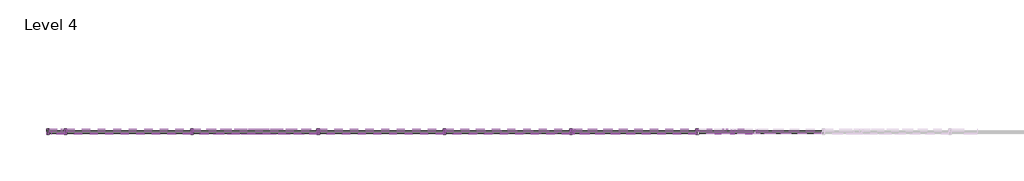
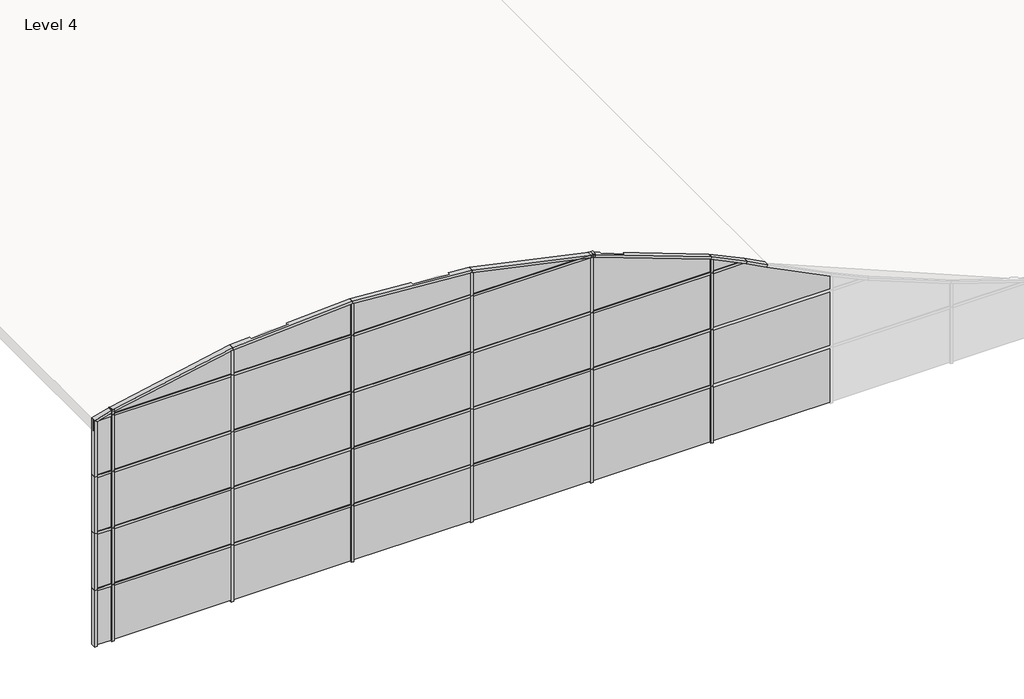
# One storey, part 1 of 2: 66 members, 33 plates.
"""IFC4 building model written with IfcOpenShell, lengths in millimetres."""

from ifc_helpers import new_model, si_unit, origin, place, context, project, spatial, transform, mapped, element, save
from components import member_8cef0660, member_82905deb, member_4491d118, member_faf7298b, member_955cf6cd, member_e5f99422, member_73fb274f, member_a47185ce, member_d19be1f0, member_cde82955, member_f3edd3fb, member_453e99e5, member_9c668a66, member_24a7c0ea, member_549f2401, member_e0f06050, member_56d0ea82, member_09c59d25, member_aafbdc53, member_af2f84b9, member_494aa8e8, member_e47226ae, member_e590d8a7, system_panel_solid_4f3844da, system_panel_solid_93991fe5, system_panel_solid_98b8eca1, system_panel_solid_25f436c3, system_panel_solid_94e46eaf, system_panel_solid_ae3a6953, system_panel_solid_29574cca, system_panel_solid_124e7d94, system_panel_solid_212cb18d, system_panel_solid_5f5f2803

model = new_model("IFC4")

# Units and contexts
model_context = context("Model", 3, world=origin())
ifc_project = project(units=[si_unit("LENGTHUNIT", "METRE", prefix="MILLI")], contexts=[model_context])

# Site, building, storey
site = spatial("IfcSite", under=ifc_project)
building = spatial("IfcBuilding", under=site)
storey = spatial("IfcBuildingStorey", under=building, Name="Level 4", Elevation=9144.0)

# Members
placement = place(None, origin())
member_shape = member_8cef0660(model_context)
element("IfcMember", 1, ObjectType="Rectangular Mullion : 2.5\" x 5\" rectangular", at=placement, inside=storey, context=model_context, shape_type="MappedRepresentation", body=[
    mapped(member_shape, transform((-31419.6011466, -42761.5611797, 10668.0), x_axis=(0.0, 0.0, 1.0), y_axis=(0.0, -1.0, 0.0), z_axis=(1.0, 0.0, 0.0))),
])
element("IfcMember", 2, ObjectType="Rectangular Mullion : 2.5\" x 5\" rectangular", at=placement, inside=storey, context=model_context, shape_type="MappedRepresentation", body=[
    mapped(member_shape, transform((-28371.6011466, -42761.5611797, 10668.0), x_axis=(0.0, 0.0, 1.0), y_axis=(0.0, -1.0, 0.0), z_axis=(1.0, 0.0, 0.0))),
])
element("IfcMember", 3, ObjectType="Rectangular Mullion : 2.5\" x 5\" rectangular", at=placement, inside=storey, context=model_context, shape_type="MappedRepresentation", body=[
    mapped(member_shape, transform((-40563.6011466, -42761.5611797, 15240.0), x_axis=(0.0, 0.0, 1.0), y_axis=(0.0, -1.0, 0.0), z_axis=(1.0, 0.0, 0.0))),
])
element("IfcMember", 4, ObjectType="Rectangular Mullion : 2.5\" x 5\" rectangular", at=placement, inside=storey, context=model_context, shape_type="MappedRepresentation", body=[
    mapped(member_shape, transform((-37515.6011466, -42761.5611797, 15240.0), x_axis=(0.0, 0.0, 1.0), y_axis=(0.0, -1.0, 0.0), z_axis=(1.0, 0.0, 0.0))),
])
element("IfcMember", 5, ObjectType="Rectangular Mullion : 2.5\" x 5\" rectangular", at=placement, inside=storey, context=model_context, shape_type="MappedRepresentation", body=[
    mapped(member_shape, transform((-34467.6011466, -42761.5611797, 15240.0), x_axis=(0.0, 0.0, 1.0), y_axis=(0.0, -1.0, 0.0), z_axis=(1.0, 0.0, 0.0))),
])
element("IfcMember", 6, ObjectType="Rectangular Mullion : 2.5\" x 5\" rectangular", at=placement, inside=storey, context=model_context, shape_type="MappedRepresentation", body=[
    mapped(member_shape, transform((-31419.6011466, -42761.5611797, 15240.0), x_axis=(0.0, 0.0, 1.0), y_axis=(0.0, -1.0, 0.0), z_axis=(1.0, 0.0, 0.0))),
])
element("IfcMember", 7, ObjectType="Rectangular Mullion : 2.5\" x 5\" rectangular", at=placement, inside=storey, context=model_context, shape_type="MappedRepresentation", body=[
    mapped(member_shape, transform((-40563.6011466, -42761.5611797, 13716.0), x_axis=(0.0, 0.0, 1.0), y_axis=(0.0, -1.0, 0.0), z_axis=(1.0, 0.0, 0.0))),
])
element("IfcMember", 8, ObjectType="Rectangular Mullion : 2.5\" x 5\" rectangular", at=placement, inside=storey, context=model_context, shape_type="MappedRepresentation", body=[
    mapped(member_shape, transform((-37515.6011466, -42761.5611797, 13716.0), x_axis=(0.0, 0.0, 1.0), y_axis=(0.0, -1.0, 0.0), z_axis=(1.0, 0.0, 0.0))),
])
element("IfcMember", 9, ObjectType="Rectangular Mullion : 2.5\" x 5\" rectangular", at=placement, inside=storey, context=model_context, shape_type="MappedRepresentation", body=[
    mapped(member_shape, transform((-34467.6011466, -42761.5611797, 13716.0), x_axis=(0.0, 0.0, 1.0), y_axis=(0.0, -1.0, 0.0), z_axis=(1.0, 0.0, 0.0))),
])
element("IfcMember", 10, ObjectType="Rectangular Mullion : 2.5\" x 5\" rectangular", at=placement, inside=storey, context=model_context, shape_type="MappedRepresentation", body=[
    mapped(member_shape, transform((-31419.6011466, -42761.5611797, 13716.0), x_axis=(0.0, 0.0, 1.0), y_axis=(0.0, -1.0, 0.0), z_axis=(1.0, 0.0, 0.0))),
])
element("IfcMember", 11, ObjectType="Rectangular Mullion : 2.5\" x 5\" rectangular", at=placement, inside=storey, context=model_context, shape_type="MappedRepresentation", body=[
    mapped(member_shape, transform((-28371.6011466, -42761.5611797, 13716.0), x_axis=(0.0, 0.0, 1.0), y_axis=(0.0, -1.0, 0.0), z_axis=(1.0, 0.0, 0.0))),
])
element("IfcMember", 12, ObjectType="Rectangular Mullion : 2.5\" x 5\" rectangular", at=placement, inside=storey, context=model_context, shape_type="MappedRepresentation", body=[
    mapped(member_shape, transform((-40563.6011466, -42761.5611797, 12192.0), x_axis=(0.0, 0.0, 1.0), y_axis=(0.0, -1.0, 0.0), z_axis=(1.0, 0.0, 0.0))),
])
element("IfcMember", 13, ObjectType="Rectangular Mullion : 2.5\" x 5\" rectangular", at=placement, inside=storey, context=model_context, shape_type="MappedRepresentation", body=[
    mapped(member_shape, transform((-37515.6011466, -42761.5611797, 12192.0), x_axis=(0.0, 0.0, 1.0), y_axis=(0.0, -1.0, 0.0), z_axis=(1.0, 0.0, 0.0))),
])
element("IfcMember", 14, ObjectType="Rectangular Mullion : 2.5\" x 5\" rectangular", at=placement, inside=storey, context=model_context, shape_type="MappedRepresentation", body=[
    mapped(member_shape, transform((-34467.6011466, -42761.5611797, 12192.0), x_axis=(0.0, 0.0, 1.0), y_axis=(0.0, -1.0, 0.0), z_axis=(1.0, 0.0, 0.0))),
])
element("IfcMember", 15, ObjectType="Rectangular Mullion : 2.5\" x 5\" rectangular", at=placement, inside=storey, context=model_context, shape_type="MappedRepresentation", body=[
    mapped(member_shape, transform((-31419.6011466, -42761.5611797, 12192.0), x_axis=(0.0, 0.0, 1.0), y_axis=(0.0, -1.0, 0.0), z_axis=(1.0, 0.0, 0.0))),
])
element("IfcMember", 16, ObjectType="Rectangular Mullion : 2.5\" x 5\" rectangular", at=placement, inside=storey, context=model_context, shape_type="MappedRepresentation", body=[
    mapped(member_shape, transform((-28371.6011466, -42761.5611797, 12192.0), x_axis=(0.0, 0.0, 1.0), y_axis=(0.0, -1.0, 0.0), z_axis=(1.0, 0.0, 0.0))),
])
element("IfcMember", 17, ObjectType="Rectangular Mullion : 2.5\" x 5\" rectangular", at=placement, inside=storey, context=model_context, shape_type="MappedRepresentation", body=[
    mapped(member_shape, transform((-40563.6011466, -42761.5611797, 10668.0), x_axis=(0.0, 0.0, 1.0), y_axis=(0.0, -1.0, 0.0), z_axis=(1.0, 0.0, 0.0))),
])
element("IfcMember", 18, ObjectType="Rectangular Mullion : 2.5\" x 5\" rectangular", at=placement, inside=storey, context=model_context, shape_type="MappedRepresentation", body=[
    mapped(member_shape, transform((-37515.6011466, -42761.5611797, 10668.0), x_axis=(0.0, 0.0, 1.0), y_axis=(0.0, -1.0, 0.0), z_axis=(1.0, 0.0, 0.0))),
])
element("IfcMember", 19, ObjectType="Rectangular Mullion : 2.5\" x 5\" rectangular", at=placement, inside=storey, context=model_context, shape_type="MappedRepresentation", body=[
    mapped(member_shape, transform((-34467.6011466, -42761.5611797, 10668.0), x_axis=(0.0, 0.0, 1.0), y_axis=(0.0, -1.0, 0.0), z_axis=(1.0, 0.0, 0.0))),
])
member_2_shape = member_82905deb(model_context)
element("IfcMember", 20, ObjectType="Rectangular Mullion : 2.5\" x 5\" rectangular", at=placement, inside=storey, context=model_context, shape_type="MappedRepresentation", body=[
    mapped(member_2_shape, transform((-31387.8511466, -42761.5611797, 13716.0), x_axis=(-1.0, 0.0, 0.0), y_axis=(0.0, -1.0, 0.0), z_axis=(0.0, 0.0, 1.0))),
])
element("IfcMember", 21, ObjectType="Rectangular Mullion : 2.5\" x 5\" rectangular", at=placement, inside=storey, context=model_context, shape_type="MappedRepresentation", body=[
    mapped(member_2_shape, transform((-31387.8511466, -42761.5611797, 12192.0), x_axis=(-1.0, 0.0, 0.0), y_axis=(0.0, -1.0, 0.0), z_axis=(0.0, 0.0, 1.0))),
])
element("IfcMember", 22, ObjectType="Rectangular Mullion : 2.5\" x 5\" rectangular", at=placement, inside=storey, context=model_context, shape_type="MappedRepresentation", body=[
    mapped(member_2_shape, transform((-31387.8511466, -42761.5611797, 10668.0), x_axis=(-1.0, 0.0, 0.0), y_axis=(0.0, -1.0, 0.0), z_axis=(0.0, 0.0, 1.0))),
])
element("IfcMember", 23, ObjectType="Rectangular Mullion : 2.5\" x 5\" rectangular", at=placement, inside=storey, context=model_context, shape_type="MappedRepresentation", body=[
    mapped(member_2_shape, transform((-28339.8511466, -42761.5611797, 13716.0), x_axis=(-1.0, 0.0, 0.0), y_axis=(0.0, -1.0, 0.0), z_axis=(0.0, 0.0, 1.0))),
])
element("IfcMember", 24, ObjectType="Rectangular Mullion : 2.5\" x 5\" rectangular", at=placement, inside=storey, context=model_context, shape_type="MappedRepresentation", body=[
    mapped(member_2_shape, transform((-28339.8511466, -42761.5611797, 12192.0), x_axis=(-1.0, 0.0, 0.0), y_axis=(0.0, -1.0, 0.0), z_axis=(0.0, 0.0, 1.0))),
])
element("IfcMember", 25, ObjectType="Rectangular Mullion : 2.5\" x 5\" rectangular", at=placement, inside=storey, context=model_context, shape_type="MappedRepresentation", body=[
    mapped(member_2_shape, transform((-28339.8511466, -42761.5611797, 10668.0), x_axis=(-1.0, 0.0, 0.0), y_axis=(0.0, -1.0, 0.0), z_axis=(0.0, 0.0, 1.0))),
])
element("IfcMember", 26, ObjectType="Rectangular Mullion : 2.5\" x 5\" rectangular", at=placement, inside=storey, context=model_context, shape_type="MappedRepresentation", body=[
    mapped(member_2_shape, transform((-43579.8511466, -42761.5611797, 15240.0), x_axis=(-1.0, 0.0, 0.0), y_axis=(0.0, -1.0, 0.0), z_axis=(0.0, 0.0, 1.0))),
])
element("IfcMember", 27, ObjectType="Rectangular Mullion : 2.5\" x 5\" rectangular", at=placement, inside=storey, context=model_context, shape_type="MappedRepresentation", body=[
    mapped(member_2_shape, transform((-43579.8511466, -42761.5611797, 13716.0), x_axis=(-1.0, 0.0, 0.0), y_axis=(0.0, -1.0, 0.0), z_axis=(0.0, 0.0, 1.0))),
])
element("IfcMember", 28, ObjectType="Rectangular Mullion : 2.5\" x 5\" rectangular", at=placement, inside=storey, context=model_context, shape_type="MappedRepresentation", body=[
    mapped(member_2_shape, transform((-43579.8511466, -42761.5611797, 12192.0), x_axis=(-1.0, 0.0, 0.0), y_axis=(0.0, -1.0, 0.0), z_axis=(0.0, 0.0, 1.0))),
])
element("IfcMember", 29, ObjectType="Rectangular Mullion : 2.5\" x 5\" rectangular", at=placement, inside=storey, context=model_context, shape_type="MappedRepresentation", body=[
    mapped(member_2_shape, transform((-43579.8511466, -42761.5611797, 10668.0), x_axis=(-1.0, 0.0, 0.0), y_axis=(0.0, -1.0, 0.0), z_axis=(0.0, 0.0, 1.0))),
])
element("IfcMember", 30, ObjectType="Rectangular Mullion : 2.5\" x 5\" rectangular", at=placement, inside=storey, context=model_context, shape_type="MappedRepresentation", body=[
    mapped(member_2_shape, transform((-40531.8511466, -42761.5611797, 15240.0), x_axis=(-1.0, 0.0, 0.0), y_axis=(0.0, -1.0, 0.0), z_axis=(0.0, 0.0, 1.0))),
])
element("IfcMember", 31, ObjectType="Rectangular Mullion : 2.5\" x 5\" rectangular", at=placement, inside=storey, context=model_context, shape_type="MappedRepresentation", body=[
    mapped(member_2_shape, transform((-40531.8511466, -42761.5611797, 13716.0), x_axis=(-1.0, 0.0, 0.0), y_axis=(0.0, -1.0, 0.0), z_axis=(0.0, 0.0, 1.0))),
])
element("IfcMember", 32, ObjectType="Rectangular Mullion : 2.5\" x 5\" rectangular", at=placement, inside=storey, context=model_context, shape_type="MappedRepresentation", body=[
    mapped(member_2_shape, transform((-40531.8511466, -42761.5611797, 12192.0), x_axis=(-1.0, 0.0, 0.0), y_axis=(0.0, -1.0, 0.0), z_axis=(0.0, 0.0, 1.0))),
])
element("IfcMember", 33, ObjectType="Rectangular Mullion : 2.5\" x 5\" rectangular", at=placement, inside=storey, context=model_context, shape_type="MappedRepresentation", body=[
    mapped(member_2_shape, transform((-40531.8511466, -42761.5611797, 10668.0), x_axis=(-1.0, 0.0, 0.0), y_axis=(0.0, -1.0, 0.0), z_axis=(0.0, 0.0, 1.0))),
])
element("IfcMember", 34, ObjectType="Rectangular Mullion : 2.5\" x 5\" rectangular", at=placement, inside=storey, context=model_context, shape_type="MappedRepresentation", body=[
    mapped(member_2_shape, transform((-37483.8511466, -42761.5611797, 15240.0), x_axis=(-1.0, 0.0, 0.0), y_axis=(0.0, -1.0, 0.0), z_axis=(0.0, 0.0, 1.0))),
])
element("IfcMember", 35, ObjectType="Rectangular Mullion : 2.5\" x 5\" rectangular", at=placement, inside=storey, context=model_context, shape_type="MappedRepresentation", body=[
    mapped(member_2_shape, transform((-37483.8511466, -42761.5611797, 13716.0), x_axis=(-1.0, 0.0, 0.0), y_axis=(0.0, -1.0, 0.0), z_axis=(0.0, 0.0, 1.0))),
])
element("IfcMember", 36, ObjectType="Rectangular Mullion : 2.5\" x 5\" rectangular", at=placement, inside=storey, context=model_context, shape_type="MappedRepresentation", body=[
    mapped(member_2_shape, transform((-37483.8511466, -42761.5611797, 12192.0), x_axis=(-1.0, 0.0, 0.0), y_axis=(0.0, -1.0, 0.0), z_axis=(0.0, 0.0, 1.0))),
])
element("IfcMember", 37, ObjectType="Rectangular Mullion : 2.5\" x 5\" rectangular", at=placement, inside=storey, context=model_context, shape_type="MappedRepresentation", body=[
    mapped(member_2_shape, transform((-37483.8511466, -42761.5611797, 10668.0), x_axis=(-1.0, 0.0, 0.0), y_axis=(0.0, -1.0, 0.0), z_axis=(0.0, 0.0, 1.0))),
])
element("IfcMember", 38, ObjectType="Rectangular Mullion : 2.5\" x 5\" rectangular", at=placement, inside=storey, context=model_context, shape_type="MappedRepresentation", body=[
    mapped(member_2_shape, transform((-34435.8511466, -42761.5611797, 15240.0), x_axis=(-1.0, 0.0, 0.0), y_axis=(0.0, -1.0, 0.0), z_axis=(0.0, 0.0, 1.0))),
])
element("IfcMember", 39, ObjectType="Rectangular Mullion : 2.5\" x 5\" rectangular", at=placement, inside=storey, context=model_context, shape_type="MappedRepresentation", body=[
    mapped(member_2_shape, transform((-34435.8511466, -42761.5611797, 13716.0), x_axis=(-1.0, 0.0, 0.0), y_axis=(0.0, -1.0, 0.0), z_axis=(0.0, 0.0, 1.0))),
])
element("IfcMember", 40, ObjectType="Rectangular Mullion : 2.5\" x 5\" rectangular", at=placement, inside=storey, context=model_context, shape_type="MappedRepresentation", body=[
    mapped(member_2_shape, transform((-34435.8511466, -42761.5611797, 12192.0), x_axis=(-1.0, 0.0, 0.0), y_axis=(0.0, -1.0, 0.0), z_axis=(0.0, 0.0, 1.0))),
])
element("IfcMember", 41, ObjectType="Rectangular Mullion : 2.5\" x 5\" rectangular", at=placement, inside=storey, context=model_context, shape_type="MappedRepresentation", body=[
    mapped(member_2_shape, transform((-34435.8511466, -42761.5611797, 10668.0), x_axis=(-1.0, 0.0, 0.0), y_axis=(0.0, -1.0, 0.0), z_axis=(0.0, 0.0, 1.0))),
])
member_3_shape = member_4491d118(model_context)
element("IfcMember", 42, ObjectType="Rectangular Mullion : 2.5\" x 5\" rectangular", at=placement, inside=storey, context=model_context, shape_type="MappedRepresentation", body=[
    mapped(member_3_shape, transform((-44037.0511466, -42761.5611797, 13716.0), x_axis=(-1.0, 0.0, 0.0), y_axis=(0.0, -1.0, 0.0), z_axis=(0.0, 0.0, 1.0))),
])
element("IfcMember", 43, ObjectType="Rectangular Mullion : 2.5\" x 5\" rectangular", at=placement, inside=storey, context=model_context, shape_type="MappedRepresentation", body=[
    mapped(member_3_shape, transform((-44037.0511466, -42761.5611797, 12192.0), x_axis=(-1.0, 0.0, 0.0), y_axis=(0.0, -1.0, 0.0), z_axis=(0.0, 0.0, 1.0))),
])
element("IfcMember", 44, ObjectType="Rectangular Mullion : 2.5\" x 5\" rectangular", at=placement, inside=storey, context=model_context, shape_type="MappedRepresentation", body=[
    mapped(member_3_shape, transform((-44037.0511466, -42761.5611797, 10668.0), x_axis=(-1.0, 0.0, 0.0), y_axis=(0.0, -1.0, 0.0), z_axis=(0.0, 0.0, 1.0))),
])
member_4_shape = member_faf7298b(model_context)
element("IfcMember", 45, ObjectType="Rectangular Mullion : 2.5\" x 5\" rectangular", at=placement, inside=storey, context=model_context, shape_type="MappedRepresentation", body=[
    mapped(member_4_shape, transform((-43579.8511466, -42761.5611797, 15368.4599843), x_axis=(-1.0, 0.0, 0.0), y_axis=(0.0, -1.0, 0.0), z_axis=(0.0, 0.0, 1.0))),
])
member_5_shape = member_955cf6cd(model_context)
element("IfcMember", 46, ObjectType="Rectangular Mullion : 2.5\" x 5\" rectangular", at=placement, inside=storey, context=model_context, shape_type="MappedRepresentation", body=[
    mapped(member_5_shape, transform((-40531.8511466, -42761.5611797, 15970.3323019), x_axis=(-1.0, 0.0, 0.0), y_axis=(0.0, -1.0, 0.0), z_axis=(0.0, 0.0, 1.0))),
])
member_6_shape = member_e5f99422(model_context)
element("IfcMember", 47, ObjectType="Rectangular Mullion : 2.5\" x 5\" rectangular", at=placement, inside=storey, context=model_context, shape_type="MappedRepresentation", body=[
    mapped(member_6_shape, transform((-37483.8511466, -42761.5611797, 16150.8510976), x_axis=(-1.0, 0.0, 0.0), y_axis=(0.0, -1.0, 0.0), z_axis=(0.0, 0.0, 1.0))),
])
member_7_shape = member_73fb274f(model_context)
element("IfcMember", 48, ObjectType="Rectangular Mullion : 2.5\" x 5\" rectangular", at=placement, inside=storey, context=model_context, shape_type="MappedRepresentation", body=[
    mapped(member_7_shape, transform((-28339.8511466, -42761.5611797, 14145.8687964), x_axis=(-1.0, 0.0, 0.0), y_axis=(0.0, -1.0, 0.0), z_axis=(0.0, 0.0, 1.0))),
])
member_8_shape = member_a47185ce(model_context)
element("IfcMember", 49, ObjectType="Rectangular Mullion : 2.5\" x 5\" rectangular", at=placement, inside=storey, context=model_context, shape_type="MappedRepresentation", body=[
    mapped(member_8_shape, transform((-34435.8511466, -42761.5611797, 15920.1745497), x_axis=(-1.0, 0.0, 0.0), y_axis=(0.0, -1.0, 0.0), z_axis=(0.0, 0.0, 1.0))),
])
member_9_shape = member_d19be1f0(model_context)
element("IfcMember", 50, ObjectType="Rectangular Mullion : 2.5\" x 5\" rectangular", at=placement, inside=storey, context=model_context, shape_type="MappedRepresentation", body=[
    mapped(member_9_shape, transform((-44037.0511466, -42761.5611797, 15240.0), x_axis=(-1.0, 0.0, 0.0), y_axis=(0.0, -1.0, 0.0), z_axis=(0.0, 0.0, 1.0))),
])
member_10_shape = member_cde82955(model_context)
element("IfcMember", 51, ObjectType="Rectangular Mullion : 2.5\" x 5\" rectangular", at=placement, inside=storey, context=model_context, shape_type="MappedRepresentation", body=[
    mapped(member_10_shape, transform((-26910.1906821, -42761.5611797, 13439.8944284), x_axis=(0.4623601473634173, 0.0, 0.8866922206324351), y_axis=(0.0, -1.0, 0.0), z_axis=(0.8866922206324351, 0.0, -0.4623601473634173))),
])
member_11_shape = member_f3edd3fb(model_context)
element("IfcMember", 52, ObjectType="Rectangular Mullion : 2.5\" x 5\" rectangular", at=placement, inside=storey, context=model_context, shape_type="MappedRepresentation", body=[
    mapped(member_11_shape, transform((-31300.7826562, -42761.5611797, 15240.0), x_axis=(0.27863697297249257, 0.0, 0.9603965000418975), y_axis=(0.0, -1.0, 0.0), z_axis=(0.9603965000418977, 0.0, -0.2786369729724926))),
])
member_12_shape = member_453e99e5(model_context)
element("IfcMember", 53, ObjectType="Rectangular Mullion : 2.5\" x 5\" rectangular", at=placement, inside=storey, context=model_context, shape_type="MappedRepresentation", body=[
    mapped(member_12_shape, transform((-27439.692768, -42761.5611797, 13716.0), x_axis=(0.4309318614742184, 0.0, 0.9023844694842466), y_axis=(0.0, -1.0, 0.0), z_axis=(0.9023844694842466, 0.0, -0.4309318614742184))),
])
member_13_shape = member_9c668a66(model_context)
element("IfcMember", 54, ObjectType="Rectangular Mullion : 2.5\" x 5\" rectangular", at=placement, inside=storey, context=model_context, shape_type="MappedRepresentation", body=[
    mapped(member_13_shape, transform((-43579.8511466, -42761.5611797, 15368.4599843), x_axis=(-0.2704967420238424, 0.0, 0.9627208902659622), y_axis=(0.0, -1.0, 0.0), z_axis=(0.9627208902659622, 0.0, 0.2704967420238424))),
])
member_14_shape = member_24a7c0ea(model_context)
element("IfcMember", 55, ObjectType="Rectangular Mullion : 2.5\" x 5\" rectangular", at=placement, inside=storey, context=model_context, shape_type="MappedRepresentation", body=[
    mapped(member_14_shape, transform((-40531.8511466, -42761.5611797, 15970.3323019), x_axis=(-0.19372391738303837, 0.0, 0.9810560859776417), y_axis=(0.0, -1.0, 0.0), z_axis=(0.9810560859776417, 0.0, 0.19372391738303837))),
])
member_15_shape = member_549f2401(model_context)
element("IfcMember", 56, ObjectType="Rectangular Mullion : 2.5\" x 5\" rectangular", at=placement, inside=storey, context=model_context, shape_type="MappedRepresentation", body=[
    mapped(member_15_shape, transform((-37483.8511466, -42761.5611797, 16150.8510976), x_axis=(-0.059121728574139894, 0.0, 0.9982507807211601), y_axis=(0.0, -1.0, 0.0), z_axis=(0.99825078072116, 0.0, 0.05912172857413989))),
])
member_16_shape = member_e0f06050(model_context)
element("IfcMember", 57, ObjectType="Rectangular Mullion : 2.5\" x 5\" rectangular", at=placement, inside=storey, context=model_context, shape_type="MappedRepresentation", body=[
    mapped(member_16_shape, transform((-34435.8511466, -42761.5611797, 15920.1745497), x_axis=(0.14243519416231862, 0.0, 0.989804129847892), y_axis=(0.0, -1.0, 0.0), z_axis=(0.9898041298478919, 0.0, -0.1424351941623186))),
])
member_17_shape = member_56d0ea82(model_context)
element("IfcMember", 58, ObjectType="Rectangular Mullion : 2.5\" x 5\" rectangular", at=placement, inside=storey, context=model_context, shape_type="MappedRepresentation", body=[
    mapped(member_17_shape, transform((-31387.8511466, -42761.5611797, 15265.2609215), x_axis=(0.2100721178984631, 0.0, 0.9776858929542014), y_axis=(0.0, -1.0, 0.0), z_axis=(0.9776858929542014, 0.0, -0.2100721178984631))),
])
member_18_shape = member_09c59d25(model_context)
element("IfcMember", 59, ObjectType="Rectangular Mullion : 2.5\" x 5\" rectangular", at=placement, inside=storey, context=model_context, shape_type="MappedRepresentation", body=[
    mapped(member_18_shape, transform((-28339.8511466, -42761.5611797, 14145.8687964), x_axis=(0.3466149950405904, 0.0, 0.9380074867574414), y_axis=(0.0, -1.0, 0.0), z_axis=(0.9380074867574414, 0.0, -0.3466149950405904))),
])
member_19_shape = member_aafbdc53(model_context)
element("IfcMember", 60, ObjectType="Rectangular Mullion : 2.5\" x 5\" rectangular", at=placement, inside=storey, context=model_context, shape_type="MappedRepresentation", body=[
    mapped(member_19_shape, transform((-31387.8511466, -42761.5611797, 15271.75), x_axis=(-1.0, 0.0, 0.0), y_axis=(0.0, -1.0, 0.0), z_axis=(0.0, 0.0, 1.0))),
])
member_20_shape = member_af2f84b9(model_context)
element("IfcMember", 61, ObjectType="Rectangular Mullion : 2.5\" x 5\" rectangular", at=placement, inside=storey, context=model_context, shape_type="MappedRepresentation", body=[
    mapped(member_20_shape, transform((-43611.6011466, -42761.5611797, 13716.0), x_axis=(0.0, 0.0, 1.0), y_axis=(0.0, -1.0, 0.0), z_axis=(1.0, 0.0, 0.0))),
])
element("IfcMember", 62, ObjectType="Rectangular Mullion : 2.5\" x 5\" rectangular", at=placement, inside=storey, context=model_context, shape_type="MappedRepresentation", body=[
    mapped(member_20_shape, transform((-43611.6011466, -42761.5611797, 12192.0), x_axis=(0.0, 0.0, 1.0), y_axis=(0.0, -1.0, 0.0), z_axis=(1.0, 0.0, 0.0))),
])
element("IfcMember", 63, ObjectType="Rectangular Mullion : 2.5\" x 5\" rectangular", at=placement, inside=storey, context=model_context, shape_type="MappedRepresentation", body=[
    mapped(member_20_shape, transform((-43611.6011466, -42761.5611797, 10668.0), x_axis=(0.0, 0.0, 1.0), y_axis=(0.0, -1.0, 0.0), z_axis=(1.0, 0.0, 0.0))),
])
member_21_shape = member_494aa8e8(model_context)
element("IfcMember", 64, ObjectType="Rectangular Mullion : 2.5\" x 5\" rectangular", at=placement, inside=storey, context=model_context, shape_type="MappedRepresentation", body=[
    mapped(member_21_shape, transform((-43611.6011466, -42761.5611797, 15240.0), x_axis=(0.0, 0.0, 1.0), y_axis=(0.0, -1.0, 0.0), z_axis=(1.0, 0.0, 0.0))),
])
member_22_shape = member_e47226ae(model_context)
element("IfcMember", 65, ObjectType="Rectangular Mullion : 2.5\" x 5\" rectangular", at=placement, inside=storey, context=model_context, shape_type="MappedRepresentation", body=[
    mapped(member_22_shape, transform((-31300.7826562, -42761.5611797, 15240.0), x_axis=(0.0, 0.0, 1.0), y_axis=(0.0, -1.0, 0.0), z_axis=(1.0, 0.0, 0.0))),
])
member_23_shape = member_e590d8a7(model_context)
element("IfcMember", 66, ObjectType="Rectangular Mullion : 2.5\" x 5\" rectangular", at=placement, inside=storey, context=model_context, shape_type="MappedRepresentation", body=[
    mapped(member_23_shape, transform((-27439.692768, -42761.5611797, 13716.0), x_axis=(0.0, 0.0, 1.0), y_axis=(0.0, -1.0, 0.0), z_axis=(1.0, 0.0, 0.0))),
])

# Plates
system_panel_solid_shape = system_panel_solid_4f3844da(model_context)
element("IfcPlate", 67, ObjectType="System Panel : Solid", at=placement, inside=storey, context=model_context, shape_type="MappedRepresentation", body=[
    mapped(system_panel_solid_shape, transform((-26815.8511466, -42761.5611797, 9175.75), x_axis=(-1.0, 0.0, 0.0), y_axis=(0.0, -1.0, 0.0), z_axis=(0.0, 0.0, 1.0))),
])
element("IfcPlate", 68, ObjectType="System Panel : Solid", at=placement, inside=storey, context=model_context, shape_type="MappedRepresentation", body=[
    mapped(system_panel_solid_shape, transform((-29863.8511466, -42761.5611797, 9175.75), x_axis=(-1.0, 0.0, 0.0), y_axis=(0.0, -1.0, 0.0), z_axis=(0.0, 0.0, 1.0))),
])
element("IfcPlate", 69, ObjectType="System Panel : Solid", at=placement, inside=storey, context=model_context, shape_type="MappedRepresentation", body=[
    mapped(system_panel_solid_shape, transform((-32911.8511466, -42761.5611797, 9175.75), x_axis=(-1.0, 0.0, 0.0), y_axis=(0.0, -1.0, 0.0), z_axis=(0.0, 0.0, 1.0))),
])
element("IfcPlate", 70, ObjectType="System Panel : Solid", at=placement, inside=storey, context=model_context, shape_type="MappedRepresentation", body=[
    mapped(system_panel_solid_shape, transform((-35959.8511466, -42761.5611797, 9175.75), x_axis=(-1.0, 0.0, 0.0), y_axis=(0.0, -1.0, 0.0), z_axis=(0.0, 0.0, 1.0))),
])
element("IfcPlate", 71, ObjectType="System Panel : Solid", at=placement, inside=storey, context=model_context, shape_type="MappedRepresentation", body=[
    mapped(system_panel_solid_shape, transform((-39007.8511466, -42761.5611797, 9175.75), x_axis=(-1.0, 0.0, 0.0), y_axis=(0.0, -1.0, 0.0), z_axis=(0.0, 0.0, 1.0))),
])
element("IfcPlate", 72, ObjectType="System Panel : Solid", at=placement, inside=storey, context=model_context, shape_type="MappedRepresentation", body=[
    mapped(system_panel_solid_shape, transform((-42055.8511466, -42761.5611797, 9175.75), x_axis=(-1.0, 0.0, 0.0), y_axis=(0.0, -1.0, 0.0), z_axis=(0.0, 0.0, 1.0))),
])
element("IfcPlate", 73, ObjectType="System Panel : Solid", at=placement, inside=storey, context=model_context, shape_type="MappedRepresentation", body=[
    mapped(system_panel_solid_shape, transform((-26815.8511466, -42761.5611797, 10699.75), x_axis=(-1.0, 0.0, 0.0), y_axis=(0.0, -1.0, 0.0), z_axis=(0.0, 0.0, 1.0))),
])
element("IfcPlate", 74, ObjectType="System Panel : Solid", at=placement, inside=storey, context=model_context, shape_type="MappedRepresentation", body=[
    mapped(system_panel_solid_shape, transform((-29863.8511466, -42761.5611797, 10699.75), x_axis=(-1.0, 0.0, 0.0), y_axis=(0.0, -1.0, 0.0), z_axis=(0.0, 0.0, 1.0))),
])
element("IfcPlate", 75, ObjectType="System Panel : Solid", at=placement, inside=storey, context=model_context, shape_type="MappedRepresentation", body=[
    mapped(system_panel_solid_shape, transform((-32911.8511466, -42761.5611797, 10699.75), x_axis=(-1.0, 0.0, 0.0), y_axis=(0.0, -1.0, 0.0), z_axis=(0.0, 0.0, 1.0))),
])
element("IfcPlate", 76, ObjectType="System Panel : Solid", at=placement, inside=storey, context=model_context, shape_type="MappedRepresentation", body=[
    mapped(system_panel_solid_shape, transform((-35959.8511466, -42761.5611797, 10699.75), x_axis=(-1.0, 0.0, 0.0), y_axis=(0.0, -1.0, 0.0), z_axis=(0.0, 0.0, 1.0))),
])
element("IfcPlate", 77, ObjectType="System Panel : Solid", at=placement, inside=storey, context=model_context, shape_type="MappedRepresentation", body=[
    mapped(system_panel_solid_shape, transform((-39007.8511466, -42761.5611797, 10699.75), x_axis=(-1.0, 0.0, 0.0), y_axis=(0.0, -1.0, 0.0), z_axis=(0.0, 0.0, 1.0))),
])
element("IfcPlate", 78, ObjectType="System Panel : Solid", at=placement, inside=storey, context=model_context, shape_type="MappedRepresentation", body=[
    mapped(system_panel_solid_shape, transform((-42055.8511466, -42761.5611797, 10699.75), x_axis=(-1.0, 0.0, 0.0), y_axis=(0.0, -1.0, 0.0), z_axis=(0.0, 0.0, 1.0))),
])
element("IfcPlate", 79, ObjectType="System Panel : Solid", at=placement, inside=storey, context=model_context, shape_type="MappedRepresentation", body=[
    mapped(system_panel_solid_shape, transform((-29863.8511466, -42761.5611797, 12223.75), x_axis=(-1.0, 0.0, 0.0), y_axis=(0.0, -1.0, 0.0), z_axis=(0.0, 0.0, 1.0))),
])
element("IfcPlate", 80, ObjectType="System Panel : Solid", at=placement, inside=storey, context=model_context, shape_type="MappedRepresentation", body=[
    mapped(system_panel_solid_shape, transform((-32911.8511466, -42761.5611797, 12223.75), x_axis=(-1.0, 0.0, 0.0), y_axis=(0.0, -1.0, 0.0), z_axis=(0.0, 0.0, 1.0))),
])
element("IfcPlate", 81, ObjectType="System Panel : Solid", at=placement, inside=storey, context=model_context, shape_type="MappedRepresentation", body=[
    mapped(system_panel_solid_shape, transform((-35959.8511466, -42761.5611797, 12223.75), x_axis=(-1.0, 0.0, 0.0), y_axis=(0.0, -1.0, 0.0), z_axis=(0.0, 0.0, 1.0))),
])
element("IfcPlate", 82, ObjectType="System Panel : Solid", at=placement, inside=storey, context=model_context, shape_type="MappedRepresentation", body=[
    mapped(system_panel_solid_shape, transform((-39007.8511466, -42761.5611797, 12223.75), x_axis=(-1.0, 0.0, 0.0), y_axis=(0.0, -1.0, 0.0), z_axis=(0.0, 0.0, 1.0))),
])
element("IfcPlate", 83, ObjectType="System Panel : Solid", at=placement, inside=storey, context=model_context, shape_type="MappedRepresentation", body=[
    mapped(system_panel_solid_shape, transform((-42055.8511466, -42761.5611797, 12223.75), x_axis=(-1.0, 0.0, 0.0), y_axis=(0.0, -1.0, 0.0), z_axis=(0.0, 0.0, 1.0))),
])
element("IfcPlate", 84, ObjectType="System Panel : Solid", at=placement, inside=storey, context=model_context, shape_type="MappedRepresentation", body=[
    mapped(system_panel_solid_shape, transform((-32911.8511466, -42761.5611797, 13747.75), x_axis=(-1.0, 0.0, 0.0), y_axis=(0.0, -1.0, 0.0), z_axis=(0.0, 0.0, 1.0))),
])
element("IfcPlate", 85, ObjectType="System Panel : Solid", at=placement, inside=storey, context=model_context, shape_type="MappedRepresentation", body=[
    mapped(system_panel_solid_shape, transform((-35959.8511466, -42761.5611797, 13747.75), x_axis=(-1.0, 0.0, 0.0), y_axis=(0.0, -1.0, 0.0), z_axis=(0.0, 0.0, 1.0))),
])
element("IfcPlate", 86, ObjectType="System Panel : Solid", at=placement, inside=storey, context=model_context, shape_type="MappedRepresentation", body=[
    mapped(system_panel_solid_shape, transform((-39007.8511466, -42761.5611797, 13747.75), x_axis=(-1.0, 0.0, 0.0), y_axis=(0.0, -1.0, 0.0), z_axis=(0.0, 0.0, 1.0))),
])
element("IfcPlate", 87, ObjectType="System Panel : Solid", at=placement, inside=storey, context=model_context, shape_type="MappedRepresentation", body=[
    mapped(system_panel_solid_shape, transform((-42055.8511466, -42761.5611797, 13747.75), x_axis=(-1.0, 0.0, 0.0), y_axis=(0.0, -1.0, 0.0), z_axis=(0.0, 0.0, 1.0))),
])
system_panel_solid_2_shape = system_panel_solid_93991fe5(model_context)
element("IfcPlate", 88, ObjectType="System Panel : Solid", at=placement, inside=storey, context=model_context, shape_type="MappedRepresentation", body=[
    mapped(system_panel_solid_2_shape, transform((-43792.5761466, -42761.5611797, 9175.75), x_axis=(-1.0, 0.0, 0.0), y_axis=(0.0, -1.0, 0.0), z_axis=(0.0, 0.0, 1.0))),
])
element("IfcPlate", 89, ObjectType="System Panel : Solid", at=placement, inside=storey, context=model_context, shape_type="MappedRepresentation", body=[
    mapped(system_panel_solid_2_shape, transform((-43792.5761466, -42761.5611797, 10699.75), x_axis=(-1.0, 0.0, 0.0), y_axis=(0.0, -1.0, 0.0), z_axis=(0.0, 0.0, 1.0))),
])
element("IfcPlate", 90, ObjectType="System Panel : Solid", at=placement, inside=storey, context=model_context, shape_type="MappedRepresentation", body=[
    mapped(system_panel_solid_2_shape, transform((-43792.5761466, -42761.5611797, 12223.75), x_axis=(-1.0, 0.0, 0.0), y_axis=(0.0, -1.0, 0.0), z_axis=(0.0, 0.0, 1.0))),
])
element("IfcPlate", 91, ObjectType="System Panel : Solid", at=placement, inside=storey, context=model_context, shape_type="MappedRepresentation", body=[
    mapped(system_panel_solid_2_shape, transform((-43792.5761466, -42761.5611797, 13747.75), x_axis=(-1.0, 0.0, 0.0), y_axis=(0.0, -1.0, 0.0), z_axis=(0.0, 0.0, 1.0))),
])
system_panel_solid_3_shape = system_panel_solid_98b8eca1(model_context)
element("IfcPlate", 92, ObjectType="System Panel : Solid", at=placement, inside=storey, context=model_context, shape_type="MappedRepresentation", body=[
    mapped(system_panel_solid_3_shape, transform((-26815.8511466, -42761.5611797, 12223.75), x_axis=(-1.0, 0.0, 0.0), y_axis=(0.0, -1.0, 0.0), z_axis=(0.0, 0.0, 1.0))),
])
system_panel_solid_4_shape = system_panel_solid_25f436c3(model_context)
element("IfcPlate", 93, ObjectType="System Panel : Solid", at=placement, inside=storey, context=model_context, shape_type="MappedRepresentation", body=[
    mapped(system_panel_solid_4_shape, transform((-27980.817233, -42761.5611797, 13747.75), x_axis=(-1.0, 0.0, 0.0), y_axis=(0.0, -1.0, 0.0), z_axis=(0.0, 0.0, 1.0))),
])
system_panel_solid_5_shape = system_panel_solid_94e46eaf(model_context)
element("IfcPlate", 94, ObjectType="System Panel : Solid", at=placement, inside=storey, context=model_context, shape_type="MappedRepresentation", body=[
    mapped(system_panel_solid_5_shape, transform((-29863.8511466, -42761.5611797, 13747.75), x_axis=(-1.0, 0.0, 0.0), y_axis=(0.0, -1.0, 0.0), z_axis=(0.0, 0.0, 1.0))),
])
system_panel_solid_6_shape = system_panel_solid_ae3a6953(model_context)
element("IfcPlate", 95, ObjectType="System Panel : Solid", at=placement, inside=storey, context=model_context, shape_type="MappedRepresentation", body=[
    mapped(system_panel_solid_6_shape, transform((-33062.2149631, -42761.5611797, 15271.75), x_axis=(-1.0, 0.0, 0.0), y_axis=(0.0, -1.0, 0.0), z_axis=(0.0, 0.0, 1.0))),
])
system_panel_solid_7_shape = system_panel_solid_29574cca(model_context)
element("IfcPlate", 96, ObjectType="System Panel : Solid", at=placement, inside=storey, context=model_context, shape_type="MappedRepresentation", body=[
    mapped(system_panel_solid_7_shape, transform((-35959.8511466, -42761.5611797, 15271.75), x_axis=(-1.0, 0.0, 0.0), y_axis=(0.0, -1.0, 0.0), z_axis=(0.0, 0.0, 1.0))),
])
system_panel_solid_8_shape = system_panel_solid_124e7d94(model_context)
element("IfcPlate", 97, ObjectType="System Panel : Solid", at=placement, inside=storey, context=model_context, shape_type="MappedRepresentation", body=[
    mapped(system_panel_solid_8_shape, transform((-39007.8511466, -42761.5611797, 15271.75), x_axis=(-1.0, 0.0, 0.0), y_axis=(0.0, -1.0, 0.0), z_axis=(0.0, 0.0, 1.0))),
])
system_panel_solid_9_shape = system_panel_solid_212cb18d(model_context)
element("IfcPlate", 98, ObjectType="System Panel : Solid", at=placement, inside=storey, context=model_context, shape_type="MappedRepresentation", body=[
    mapped(system_panel_solid_9_shape, transform((-42055.8511466, -42761.5611797, 15271.75), x_axis=(-1.0, 0.0, 0.0), y_axis=(0.0, -1.0, 0.0), z_axis=(0.0, 0.0, 1.0))),
])
system_panel_solid_10_shape = system_panel_solid_5f5f2803(model_context)
element("IfcPlate", 99, ObjectType="System Panel : Solid", at=placement, inside=storey, context=model_context, shape_type="MappedRepresentation", body=[
    mapped(system_panel_solid_10_shape, transform((-43650.4490279, -42761.5611797, 15271.75), x_axis=(-1.0, 0.0, 0.0), y_axis=(0.0, -1.0, 0.0), z_axis=(0.0, 0.0, 1.0))),
])

save(model, "model.ifc")
